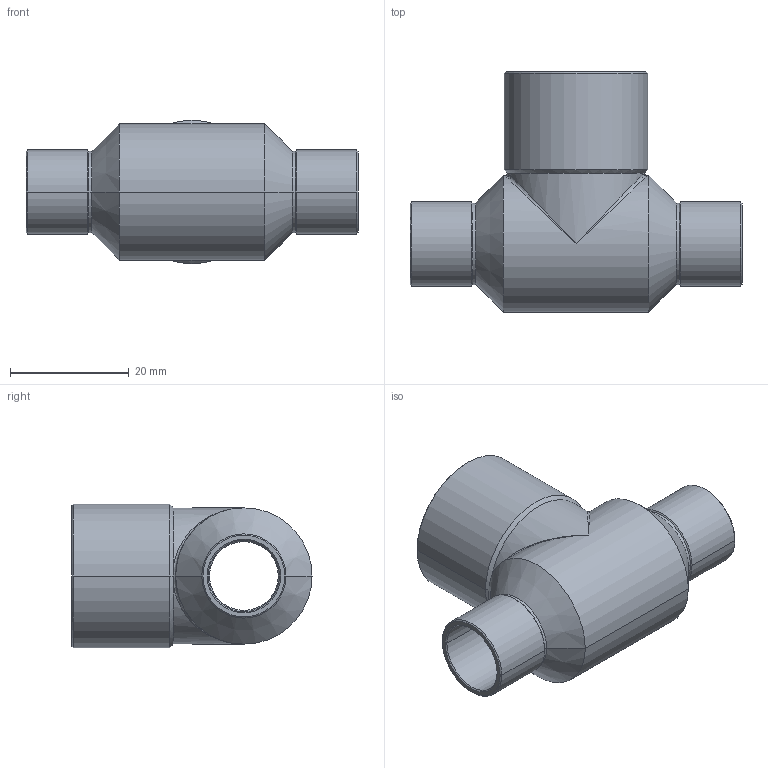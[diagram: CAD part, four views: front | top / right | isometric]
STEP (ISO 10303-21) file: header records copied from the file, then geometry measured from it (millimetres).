
FILE_DESCRIPTION((''),'2;1');
FILE_NAME('P:\Bouwmaten\z-maattekeningen 3D\5000\5130\5130122212.stp','2005-10-26T11:52:33',('Kris'),(''),'Autodesk Inventor 8','Autodesk Inventor 8','');
FILE_SCHEMA(('AUTOMOTIVE_DESIGN { 1 0 10303 214 1 1 1 1 }'));
Length unit declared in the file: millimetre
Products named in the file (1): 5130122212
Bounding box: 56 x 40.5 x 24.2 mm (x, y, z)
Volume: 4803.8 mm3; surface area: 8951.8 mm2
Topology: 1 solids, 1 shells, 71 faces, 162 edges, 84 vertices
Faces by surface type: cone 28, cylinder 24, bspline 16, plane 3
Entity records: 2507 total; most frequent: CARTESIAN_POINT 954, DIRECTION 346, ORIENTED_EDGE 308, EDGE_CURVE 154, AXIS2_PLACEMENT_3D 144, VERTEX_POINT 84, EDGE_LOOP 74, FACE_OUTER_BOUND 71
